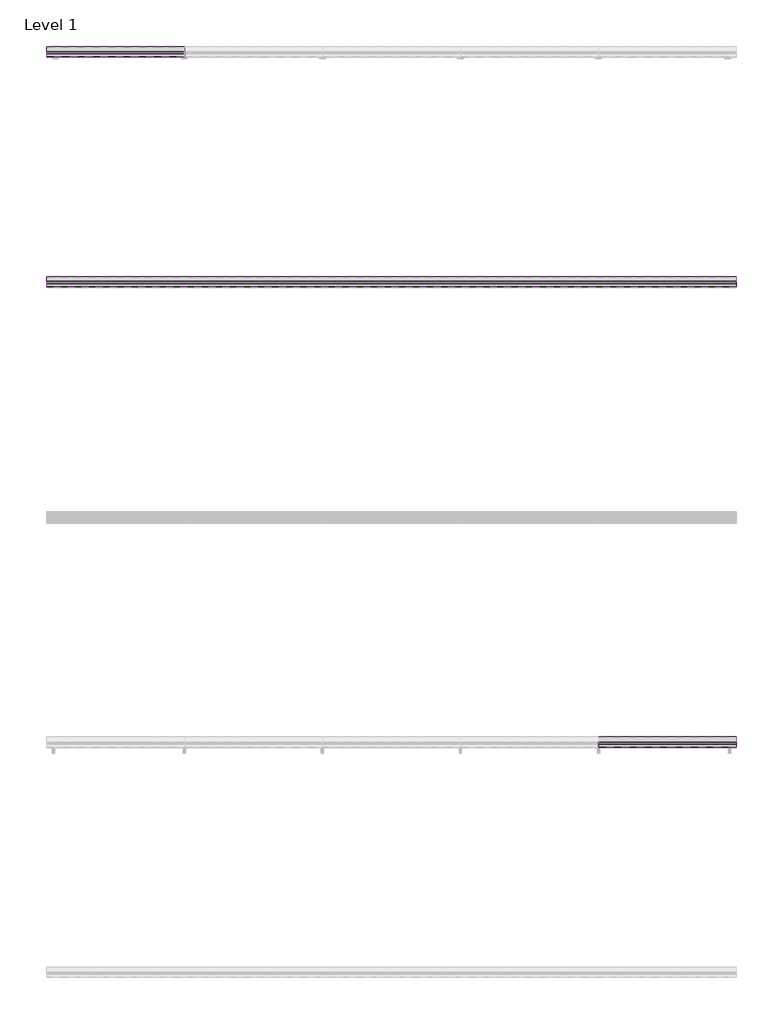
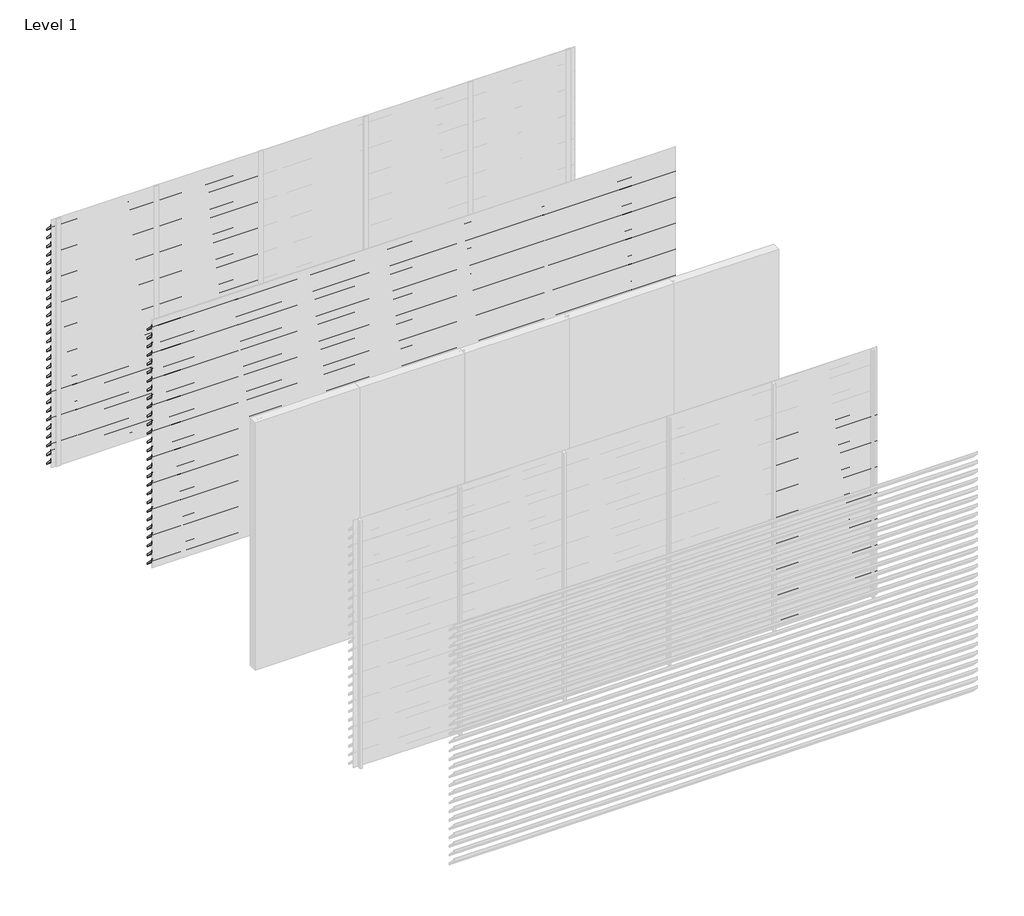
# One storey, part 7 of 8: 94 proxies.
"""IFC4 building model written with IfcOpenShell, lengths in millimetres."""

from ifc_helpers import new_model, si_unit, frame, origin, place, context, project, spatial, polyline, outline, extrude, element, save

model = new_model("IFC4")

# Units and contexts
model_context = context("Model", 3, world=origin())
ifc_project = project(units=[si_unit("LENGTHUNIT", "METRE", prefix="MILLI")], contexts=[model_context])

# Site, building, storey
site = spatial("IfcSite", under=ifc_project)
building = spatial("IfcBuilding", under=site)
storey = spatial("IfcBuildingStorey", under=building, Name="Level 1", Elevation=0.0)

# Proxies
placement = place(None, origin())
element("IfcBuildingElementProxy", 1, Name="Wall Sweeps", at=placement, inside=storey, context=model_context, shape_type="SweptSolid", body=[
    extrude(outline(polyline([(5.0, 2940.0), (5.0, 2927.0), (93.0, 2839.0), (93.0, 2818.0), (3.0, 2908.0), (3.0, 2940.0), (5.0, 2940.0)])), frame((0.0, 0.0, 0.0), z_axis=(1.0, 0.0, 0.0), x_axis=(0.0, 1.0, 0.0)), (0.0, 0.0, 1.0), 1200.0),
])
element("IfcBuildingElementProxy", 2, Name="Wall Sweeps", at=placement, inside=storey, context=model_context, shape_type="SweptSolid", body=[
    extrude(outline(polyline([(5.0, 2835.0), (5.0, 2822.0), (93.0, 2734.0), (93.0, 2713.0), (3.0, 2803.0), (3.0, 2835.0), (5.0, 2835.0)])), frame((0.0, 0.0, 0.0), z_axis=(1.0, 0.0, 0.0), x_axis=(0.0, 1.0, 0.0)), (0.0, 0.0, 1.0), 1200.0),
])
element("IfcBuildingElementProxy", 3, Name="Wall Sweeps", at=placement, inside=storey, context=model_context, shape_type="SweptSolid", body=[
    extrude(outline(polyline([(5.0, 2730.0), (5.0, 2717.0), (93.0, 2629.0), (93.0, 2608.0), (3.0, 2698.0), (3.0, 2730.0), (5.0, 2730.0)])), frame((0.0, 0.0, 0.0), z_axis=(1.0, 0.0, 0.0), x_axis=(0.0, 1.0, 0.0)), (0.0, 0.0, 1.0), 1200.0),
])
element("IfcBuildingElementProxy", 4, Name="Wall Sweeps", at=placement, inside=storey, context=model_context, shape_type="SweptSolid", body=[
    extrude(outline(polyline([(5.0, 2625.0), (5.0, 2612.0), (93.0, 2524.0), (93.0, 2503.0), (3.0, 2593.0), (3.0, 2625.0), (5.0, 2625.0)])), frame((0.0, 0.0, 0.0), z_axis=(1.0, 0.0, 0.0), x_axis=(0.0, 1.0, 0.0)), (0.0, 0.0, 1.0), 1200.0),
])
element("IfcBuildingElementProxy", 5, Name="Wall Sweeps", at=placement, inside=storey, context=model_context, shape_type="SweptSolid", body=[
    extrude(outline(polyline([(5.0, 2520.0), (5.0, 2507.0), (93.0, 2419.0), (93.0, 2398.0), (3.0, 2488.0), (3.0, 2520.0), (5.0, 2520.0)])), frame((0.0, 0.0, 0.0), z_axis=(1.0, 0.0, 0.0), x_axis=(0.0, 1.0, 0.0)), (0.0, 0.0, 1.0), 1200.0),
])
element("IfcBuildingElementProxy", 6, Name="Wall Sweeps", at=placement, inside=storey, context=model_context, shape_type="SweptSolid", body=[
    extrude(outline(polyline([(5.0, 2415.0), (5.0, 2402.0), (93.0, 2314.0), (93.0, 2293.0), (3.0, 2383.0), (3.0, 2415.0), (5.0, 2415.0)])), frame((0.0, 0.0, 0.0), z_axis=(1.0, 0.0, 0.0), x_axis=(0.0, 1.0, 0.0)), (0.0, 0.0, 1.0), 1200.0),
])
element("IfcBuildingElementProxy", 7, Name="Wall Sweeps", at=placement, inside=storey, context=model_context, shape_type="SweptSolid", body=[
    extrude(outline(polyline([(5.0, 2310.0), (5.0, 2297.0), (93.0, 2209.0), (93.0, 2188.0), (3.0, 2278.0), (3.0, 2310.0), (5.0, 2310.0)])), frame((0.0, 0.0, 0.0), z_axis=(1.0, 0.0, 0.0), x_axis=(0.0, 1.0, 0.0)), (0.0, 0.0, 1.0), 1200.0),
])
element("IfcBuildingElementProxy", 8, Name="Wall Sweeps", at=placement, inside=storey, context=model_context, shape_type="SweptSolid", body=[
    extrude(outline(polyline([(5.0, 2205.0), (5.0, 2192.0), (93.0, 2104.0), (93.0, 2083.0), (3.0, 2173.0), (3.0, 2205.0), (5.0, 2205.0)])), frame((0.0, 0.0, 0.0), z_axis=(1.0, 0.0, 0.0), x_axis=(0.0, 1.0, 0.0)), (0.0, 0.0, 1.0), 1200.0),
])
element("IfcBuildingElementProxy", 9, Name="Wall Sweeps", at=placement, inside=storey, context=model_context, shape_type="SweptSolid", body=[
    extrude(outline(polyline([(5.0, 2100.0), (5.0, 2087.0), (93.0, 1999.0), (93.0, 1978.0), (3.0, 2068.0), (3.0, 2100.0), (5.0, 2100.0)])), frame((0.0, 0.0, 0.0), z_axis=(1.0, 0.0, 0.0), x_axis=(0.0, 1.0, 0.0)), (0.0, 0.0, 1.0), 1200.0),
])
element("IfcBuildingElementProxy", 10, Name="Wall Sweeps", at=placement, inside=storey, context=model_context, shape_type="SweptSolid", body=[
    extrude(outline(polyline([(5.0, 1995.0), (5.0, 1982.0), (93.0, 1894.0), (93.0, 1873.0), (3.0, 1963.0), (3.0, 1995.0), (5.0, 1995.0)])), frame((0.0, 0.0, 0.0), z_axis=(1.0, 0.0, 0.0), x_axis=(0.0, 1.0, 0.0)), (0.0, 0.0, 1.0), 1200.0),
])
element("IfcBuildingElementProxy", 11, Name="Wall Sweeps", at=placement, inside=storey, context=model_context, shape_type="SweptSolid", body=[
    extrude(outline(polyline([(5.0, 1890.0), (5.0, 1877.0), (93.0, 1789.0), (93.0, 1768.0), (3.0, 1858.0), (3.0, 1890.0), (5.0, 1890.0)])), frame((0.0, 0.0, 0.0), z_axis=(1.0, 0.0, 0.0), x_axis=(0.0, 1.0, 0.0)), (0.0, 0.0, 1.0), 1200.0),
])
element("IfcBuildingElementProxy", 12, Name="Wall Sweeps", at=placement, inside=storey, context=model_context, shape_type="SweptSolid", body=[
    extrude(outline(polyline([(5.0, 1785.0), (5.0, 1772.0), (93.0, 1684.0), (93.0, 1663.0), (3.0, 1753.0), (3.0, 1785.0), (5.0, 1785.0)])), frame((0.0, 0.0, 0.0), z_axis=(1.0, 0.0, 0.0), x_axis=(0.0, 1.0, 0.0)), (0.0, 0.0, 1.0), 1200.0),
])
element("IfcBuildingElementProxy", 13, Name="Wall Sweeps", at=placement, inside=storey, context=model_context, shape_type="SweptSolid", body=[
    extrude(outline(polyline([(5.0, 1680.0), (5.0, 1667.0), (93.0, 1579.0), (93.0, 1558.0), (3.0, 1648.0), (3.0, 1680.0), (5.0, 1680.0)])), frame((0.0, 0.0, 0.0), z_axis=(1.0, 0.0, 0.0), x_axis=(0.0, 1.0, 0.0)), (0.0, 0.0, 1.0), 1200.0),
])
element("IfcBuildingElementProxy", 14, Name="Wall Sweeps", at=placement, inside=storey, context=model_context, shape_type="SweptSolid", body=[
    extrude(outline(polyline([(5.0, 1575.0), (5.0, 1562.0), (93.0, 1474.0), (93.0, 1453.0), (3.0, 1543.0), (3.0, 1575.0), (5.0, 1575.0)])), frame((0.0, 0.0, 0.0), z_axis=(1.0, 0.0, 0.0), x_axis=(0.0, 1.0, 0.0)), (0.0, 0.0, 1.0), 1200.0),
])
element("IfcBuildingElementProxy", 15, Name="Wall Sweeps", at=placement, inside=storey, context=model_context, shape_type="SweptSolid", body=[
    extrude(outline(polyline([(5.0, 1470.0), (5.0, 1457.0), (93.0, 1369.0), (93.0, 1348.0), (3.0, 1438.0), (3.0, 1470.0), (5.0, 1470.0)])), frame((0.0, 0.0, 0.0), z_axis=(1.0, 0.0, 0.0), x_axis=(0.0, 1.0, 0.0)), (0.0, 0.0, 1.0), 1200.0),
])
element("IfcBuildingElementProxy", 16, Name="Wall Sweeps", at=placement, inside=storey, context=model_context, shape_type="SweptSolid", body=[
    extrude(outline(polyline([(5.0, 1365.0), (5.0, 1352.0), (93.0, 1264.0), (93.0, 1243.0), (3.0, 1333.0), (3.0, 1365.0), (5.0, 1365.0)])), frame((0.0, 0.0, 0.0), z_axis=(1.0, 0.0, 0.0), x_axis=(0.0, 1.0, 0.0)), (0.0, 0.0, 1.0), 1200.0),
])
element("IfcBuildingElementProxy", 17, Name="Wall Sweeps", at=placement, inside=storey, context=model_context, shape_type="SweptSolid", body=[
    extrude(outline(polyline([(5.0, 1260.0), (5.0, 1247.0), (93.0, 1159.0), (93.0, 1138.0), (3.0, 1228.0), (3.0, 1260.0), (5.0, 1260.0)])), frame((0.0, 0.0, 0.0), z_axis=(1.0, 0.0, 0.0), x_axis=(0.0, 1.0, 0.0)), (0.0, 0.0, 1.0), 1200.0),
])
element("IfcBuildingElementProxy", 18, Name="Wall Sweeps", at=placement, inside=storey, context=model_context, shape_type="SweptSolid", body=[
    extrude(outline(polyline([(5.0, 1155.0), (5.0, 1142.0), (93.0, 1054.0), (93.0, 1033.0), (3.0, 1123.0), (3.0, 1155.0), (5.0, 1155.0)])), frame((0.0, 0.0, 0.0), z_axis=(1.0, 0.0, 0.0), x_axis=(0.0, 1.0, 0.0)), (0.0, 0.0, 1.0), 1200.0),
])
element("IfcBuildingElementProxy", 19, Name="Wall Sweeps", at=placement, inside=storey, context=model_context, shape_type="SweptSolid", body=[
    extrude(outline(polyline([(5.0, 1050.0), (5.0, 1037.0), (93.0, 949.0), (93.0, 928.0), (3.0, 1018.0), (3.0, 1050.0), (5.0, 1050.0)])), frame((0.0, 0.0, 0.0), z_axis=(1.0, 0.0, 0.0), x_axis=(0.0, 1.0, 0.0)), (0.0, 0.0, 1.0), 1200.0),
])
element("IfcBuildingElementProxy", 20, Name="Wall Sweeps", at=placement, inside=storey, context=model_context, shape_type="SweptSolid", body=[
    extrude(outline(polyline([(5.0, 945.0), (5.0, 932.0), (93.0, 844.0), (93.0, 823.0), (3.0, 913.0), (3.0, 945.0), (5.0, 945.0)])), frame((0.0, 0.0, 0.0), z_axis=(1.0, 0.0, 0.0), x_axis=(0.0, 1.0, 0.0)), (0.0, 0.0, 1.0), 1200.0),
])
element("IfcBuildingElementProxy", 21, Name="Wall Sweeps", at=placement, inside=storey, context=model_context, shape_type="SweptSolid", body=[
    extrude(outline(polyline([(5.0, 840.0), (5.0, 827.0), (93.0, 739.0), (93.0, 718.0), (3.0, 808.0), (3.0, 840.0), (5.0, 840.0)])), frame((0.0, 0.0, 0.0), z_axis=(1.0, 0.0, 0.0), x_axis=(0.0, 1.0, 0.0)), (0.0, 0.0, 1.0), 1200.0),
])
element("IfcBuildingElementProxy", 22, Name="Wall Sweeps", at=placement, inside=storey, context=model_context, shape_type="SweptSolid", body=[
    extrude(outline(polyline([(5.0, 735.0), (5.0, 722.0), (93.0, 634.0), (93.0, 613.0), (3.0, 703.0), (3.0, 735.0), (5.0, 735.0)])), frame((0.0, 0.0, 0.0), z_axis=(1.0, 0.0, 0.0), x_axis=(0.0, 1.0, 0.0)), (0.0, 0.0, 1.0), 1200.0),
])
element("IfcBuildingElementProxy", 23, Name="Wall Sweeps", at=placement, inside=storey, context=model_context, shape_type="SweptSolid", body=[
    extrude(outline(polyline([(5.0, 630.0), (5.0, 617.0), (93.0, 529.0), (93.0, 508.0), (3.0, 598.0), (3.0, 630.0), (5.0, 630.0)])), frame((0.0, 0.0, 0.0), z_axis=(1.0, 0.0, 0.0), x_axis=(0.0, 1.0, 0.0)), (0.0, 0.0, 1.0), 1200.0),
])
element("IfcBuildingElementProxy", 24, Name="Wall Sweeps", at=placement, inside=storey, context=model_context, shape_type="SweptSolid", body=[
    extrude(outline(polyline([(5.0, 525.0), (5.0, 512.0), (93.0, 424.0), (93.0, 403.0), (3.0, 493.0), (3.0, 525.0), (5.0, 525.0)])), frame((0.0, 0.0, 0.0), z_axis=(1.0, 0.0, 0.0), x_axis=(0.0, 1.0, 0.0)), (0.0, 0.0, 1.0), 1200.0),
])
element("IfcBuildingElementProxy", 25, Name="Wall Sweeps", at=placement, inside=storey, context=model_context, shape_type="SweptSolid", body=[
    extrude(outline(polyline([(5.0, 420.0), (5.0, 407.0), (93.0, 319.0), (93.0, 298.0), (3.0, 388.0), (3.0, 420.0), (5.0, 420.0)])), frame((0.0, 0.0, 0.0), z_axis=(1.0, 0.0, 0.0), x_axis=(0.0, 1.0, 0.0)), (0.0, 0.0, 1.0), 1200.0),
])
element("IfcBuildingElementProxy", 26, Name="Wall Sweeps", at=placement, inside=storey, context=model_context, shape_type="SweptSolid", body=[
    extrude(outline(polyline([(5.0, 315.0), (5.0, 302.0), (93.0, 214.0), (93.0, 193.0), (3.0, 283.0), (3.0, 315.0), (5.0, 315.0)])), frame((0.0, 0.0, 0.0), z_axis=(1.0, 0.0, 0.0), x_axis=(0.0, 1.0, 0.0)), (0.0, 0.0, 1.0), 1200.0),
])
element("IfcBuildingElementProxy", 27, Name="Wall Sweeps", at=placement, inside=storey, context=model_context, shape_type="SweptSolid", body=[
    extrude(outline(polyline([(5.0, 210.0), (5.0, 197.0), (93.0, 109.0), (93.0, 88.0), (3.0, 178.0), (3.0, 210.0), (5.0, 210.0)])), frame((0.0, 0.0, 0.0), z_axis=(1.0, 0.0, 0.0), x_axis=(0.0, 1.0, 0.0)), (0.0, 0.0, 1.0), 1200.0),
])
element("IfcBuildingElementProxy", 28, Name="Wall Sweeps", at=placement, inside=storey, context=model_context, shape_type="SweptSolid", body=[
    extrude(outline(polyline([(5.0, 105.0), (5.0, 92.0), (93.0, 4.0), (93.0, -17.0), (3.0, 73.0), (3.0, 105.0), (5.0, 105.0)])), frame((0.0, 0.0, 0.0), z_axis=(1.0, 0.0, 0.0), x_axis=(0.0, 1.0, 0.0)), (0.0, 0.0, 1.0), 1200.0),
])
element("IfcBuildingElementProxy", 29, Name="Wall Sweeps", at=placement, inside=storey, context=model_context, shape_type="SweptSolid", body=[
    extrude(outline(polyline([(5.0, 2940.0), (5.0, 2927.0), (93.0, 2839.0), (93.0, 2818.0), (3.0, 2908.0), (3.0, 2940.0), (5.0, 2940.0)])), frame((1200.0, 0.0, 0.0), z_axis=(1.0, 0.0, 0.0), x_axis=(0.0, 1.0, 0.0)), (0.0, 0.0, 1.0), 1200.0),
])
element("IfcBuildingElementProxy", 30, Name="Wall Sweeps", at=placement, inside=storey, context=model_context, shape_type="SweptSolid", body=[
    extrude(outline(polyline([(5.0, 2835.0), (5.0, 2822.0), (93.0, 2734.0), (93.0, 2713.0), (3.0, 2803.0), (3.0, 2835.0), (5.0, 2835.0)])), frame((1200.0, 0.0, 0.0), z_axis=(1.0, 0.0, 0.0), x_axis=(0.0, 1.0, 0.0)), (0.0, 0.0, 1.0), 1200.0),
])
element("IfcBuildingElementProxy", 31, Name="Wall Sweeps", at=placement, inside=storey, context=model_context, shape_type="SweptSolid", body=[
    extrude(outline(polyline([(5.0, 2730.0), (5.0, 2717.0), (93.0, 2629.0), (93.0, 2608.0), (3.0, 2698.0), (3.0, 2730.0), (5.0, 2730.0)])), frame((1200.0, 0.0, 0.0), z_axis=(1.0, 0.0, 0.0), x_axis=(0.0, 1.0, 0.0)), (0.0, 0.0, 1.0), 1200.0),
])
element("IfcBuildingElementProxy", 32, Name="Wall Sweeps", at=placement, inside=storey, context=model_context, shape_type="SweptSolid", body=[
    extrude(outline(polyline([(5.0, 2625.0), (5.0, 2612.0), (93.0, 2524.0), (93.0, 2503.0), (3.0, 2593.0), (3.0, 2625.0), (5.0, 2625.0)])), frame((1200.0, 0.0, 0.0), z_axis=(1.0, 0.0, 0.0), x_axis=(0.0, 1.0, 0.0)), (0.0, 0.0, 1.0), 1200.0),
])
element("IfcBuildingElementProxy", 33, Name="Wall Sweeps", at=placement, inside=storey, context=model_context, shape_type="SweptSolid", body=[
    extrude(outline(polyline([(5.0, 2520.0), (5.0, 2507.0), (93.0, 2419.0), (93.0, 2398.0), (3.0, 2488.0), (3.0, 2520.0), (5.0, 2520.0)])), frame((1200.0, 0.0, 0.0), z_axis=(1.0, 0.0, 0.0), x_axis=(0.0, 1.0, 0.0)), (0.0, 0.0, 1.0), 1200.0),
])
element("IfcBuildingElementProxy", 34, Name="Wall Sweeps", at=placement, inside=storey, context=model_context, shape_type="SweptSolid", body=[
    extrude(outline(polyline([(5.0, 2415.0), (5.0, 2402.0), (93.0, 2314.0), (93.0, 2293.0), (3.0, 2383.0), (3.0, 2415.0), (5.0, 2415.0)])), frame((1200.0, 0.0, 0.0), z_axis=(1.0, 0.0, 0.0), x_axis=(0.0, 1.0, 0.0)), (0.0, 0.0, 1.0), 1200.0),
])
element("IfcBuildingElementProxy", 35, Name="Wall Sweeps", at=placement, inside=storey, context=model_context, shape_type="SweptSolid", body=[
    extrude(outline(polyline([(5.0, 2310.0), (5.0, 2297.0), (93.0, 2209.0), (93.0, 2188.0), (3.0, 2278.0), (3.0, 2310.0), (5.0, 2310.0)])), frame((1200.0, 0.0, 0.0), z_axis=(1.0, 0.0, 0.0), x_axis=(0.0, 1.0, 0.0)), (0.0, 0.0, 1.0), 1200.0),
])
element("IfcBuildingElementProxy", 36, Name="Wall Sweeps", at=placement, inside=storey, context=model_context, shape_type="SweptSolid", body=[
    extrude(outline(polyline([(5.0, 2205.0), (5.0, 2192.0), (93.0, 2104.0), (93.0, 2083.0), (3.0, 2173.0), (3.0, 2205.0), (5.0, 2205.0)])), frame((1200.0, 0.0, 0.0), z_axis=(1.0, 0.0, 0.0), x_axis=(0.0, 1.0, 0.0)), (0.0, 0.0, 1.0), 1200.0),
])
element("IfcBuildingElementProxy", 37, Name="Wall Sweeps", at=placement, inside=storey, context=model_context, shape_type="SweptSolid", body=[
    extrude(outline(polyline([(5.0, 2100.0), (5.0, 2087.0), (93.0, 1999.0), (93.0, 1978.0), (3.0, 2068.0), (3.0, 2100.0), (5.0, 2100.0)])), frame((1200.0, 0.0, 0.0), z_axis=(1.0, 0.0, 0.0), x_axis=(0.0, 1.0, 0.0)), (0.0, 0.0, 1.0), 1200.0),
])
element("IfcBuildingElementProxy", 38, Name="Wall Sweeps", at=placement, inside=storey, context=model_context, shape_type="SweptSolid", body=[
    extrude(outline(polyline([(5.0, 1995.0), (5.0, 1982.0), (93.0, 1894.0), (93.0, 1873.0), (3.0, 1963.0), (3.0, 1995.0), (5.0, 1995.0)])), frame((1200.0, 0.0, 0.0), z_axis=(1.0, 0.0, 0.0), x_axis=(0.0, 1.0, 0.0)), (0.0, 0.0, 1.0), 1200.0),
])
element("IfcBuildingElementProxy", 39, Name="Wall Sweeps", at=placement, inside=storey, context=model_context, shape_type="SweptSolid", body=[
    extrude(outline(polyline([(5.0, 1890.0), (5.0, 1877.0), (93.0, 1789.0), (93.0, 1768.0), (3.0, 1858.0), (3.0, 1890.0), (5.0, 1890.0)])), frame((1200.0, 0.0, 0.0), z_axis=(1.0, 0.0, 0.0), x_axis=(0.0, 1.0, 0.0)), (0.0, 0.0, 1.0), 1200.0),
])
element("IfcBuildingElementProxy", 40, Name="Wall Sweeps", at=placement, inside=storey, context=model_context, shape_type="SweptSolid", body=[
    extrude(outline(polyline([(5.0, 1785.0), (5.0, 1772.0), (93.0, 1684.0), (93.0, 1663.0), (3.0, 1753.0), (3.0, 1785.0), (5.0, 1785.0)])), frame((1200.0, 0.0, 0.0), z_axis=(1.0, 0.0, 0.0), x_axis=(0.0, 1.0, 0.0)), (0.0, 0.0, 1.0), 1200.0),
])
element("IfcBuildingElementProxy", 41, Name="Wall Sweeps", at=placement, inside=storey, context=model_context, shape_type="SweptSolid", body=[
    extrude(outline(polyline([(5.0, 1680.0), (5.0, 1667.0), (93.0, 1579.0), (93.0, 1558.0), (3.0, 1648.0), (3.0, 1680.0), (5.0, 1680.0)])), frame((1200.0, 0.0, 0.0), z_axis=(1.0, 0.0, 0.0), x_axis=(0.0, 1.0, 0.0)), (0.0, 0.0, 1.0), 1200.0),
])
element("IfcBuildingElementProxy", 42, Name="Wall Sweeps", at=placement, inside=storey, context=model_context, shape_type="SweptSolid", body=[
    extrude(outline(polyline([(5.0, 1575.0), (5.0, 1562.0), (93.0, 1474.0), (93.0, 1453.0), (3.0, 1543.0), (3.0, 1575.0), (5.0, 1575.0)])), frame((1200.0, 0.0, 0.0), z_axis=(1.0, 0.0, 0.0), x_axis=(0.0, 1.0, 0.0)), (0.0, 0.0, 1.0), 1200.0),
])
element("IfcBuildingElementProxy", 43, Name="Wall Sweeps", at=placement, inside=storey, context=model_context, shape_type="SweptSolid", body=[
    extrude(outline(polyline([(5.0, 1470.0), (5.0, 1457.0), (93.0, 1369.0), (93.0, 1348.0), (3.0, 1438.0), (3.0, 1470.0), (5.0, 1470.0)])), frame((1200.0, 0.0, 0.0), z_axis=(1.0, 0.0, 0.0), x_axis=(0.0, 1.0, 0.0)), (0.0, 0.0, 1.0), 1200.0),
])
element("IfcBuildingElementProxy", 44, Name="Wall Sweeps", at=placement, inside=storey, context=model_context, shape_type="SweptSolid", body=[
    extrude(outline(polyline([(-1995.0, 2940.0), (-1995.0, 2927.0), (-1907.0, 2839.0), (-1907.0, 2818.0), (-1997.0, 2908.0), (-1997.0, 2940.0), (-1995.0, 2940.0)])), frame((0.0, 0.0, 0.0), z_axis=(1.0, 0.0, 0.0), x_axis=(0.0, 1.0, 0.0)), (0.0, 0.0, 1.0), 6000.0),
])
element("IfcBuildingElementProxy", 45, Name="Wall Sweeps", at=placement, inside=storey, context=model_context, shape_type="SweptSolid", body=[
    extrude(outline(polyline([(-1995.0, 2835.0), (-1995.0, 2822.0), (-1907.0, 2734.0), (-1907.0, 2713.0), (-1997.0, 2803.0), (-1997.0, 2835.0), (-1995.0, 2835.0)])), frame((0.0, 0.0, 0.0), z_axis=(1.0, 0.0, 0.0), x_axis=(0.0, 1.0, 0.0)), (0.0, 0.0, 1.0), 6000.0),
])
element("IfcBuildingElementProxy", 46, Name="Wall Sweeps", at=placement, inside=storey, context=model_context, shape_type="SweptSolid", body=[
    extrude(outline(polyline([(-1995.0, 2730.0), (-1995.0, 2717.0), (-1907.0, 2629.0), (-1907.0, 2608.0), (-1997.0, 2698.0), (-1997.0, 2730.0), (-1995.0, 2730.0)])), frame((0.0, 0.0, 0.0), z_axis=(1.0, 0.0, 0.0), x_axis=(0.0, 1.0, 0.0)), (0.0, 0.0, 1.0), 6000.0),
])
element("IfcBuildingElementProxy", 47, Name="Wall Sweeps", at=placement, inside=storey, context=model_context, shape_type="SweptSolid", body=[
    extrude(outline(polyline([(-1995.0, 2625.0), (-1995.0, 2612.0), (-1907.0, 2524.0), (-1907.0, 2503.0), (-1997.0, 2593.0), (-1997.0, 2625.0), (-1995.0, 2625.0)])), frame((0.0, 0.0, 0.0), z_axis=(1.0, 0.0, 0.0), x_axis=(0.0, 1.0, 0.0)), (0.0, 0.0, 1.0), 6000.0),
])
element("IfcBuildingElementProxy", 48, Name="Wall Sweeps", at=placement, inside=storey, context=model_context, shape_type="SweptSolid", body=[
    extrude(outline(polyline([(-1995.0, 2520.0), (-1995.0, 2507.0), (-1907.0, 2419.0), (-1907.0, 2398.0), (-1997.0, 2488.0), (-1997.0, 2520.0), (-1995.0, 2520.0)])), frame((0.0, 0.0, 0.0), z_axis=(1.0, 0.0, 0.0), x_axis=(0.0, 1.0, 0.0)), (0.0, 0.0, 1.0), 6000.0),
])
element("IfcBuildingElementProxy", 49, Name="Wall Sweeps", at=placement, inside=storey, context=model_context, shape_type="SweptSolid", body=[
    extrude(outline(polyline([(-1995.0, 2415.0), (-1995.0, 2402.0), (-1907.0, 2314.0), (-1907.0, 2293.0), (-1997.0, 2383.0), (-1997.0, 2415.0), (-1995.0, 2415.0)])), frame((0.0, 0.0, 0.0), z_axis=(1.0, 0.0, 0.0), x_axis=(0.0, 1.0, 0.0)), (0.0, 0.0, 1.0), 6000.0),
])
element("IfcBuildingElementProxy", 50, Name="Wall Sweeps", at=placement, inside=storey, context=model_context, shape_type="SweptSolid", body=[
    extrude(outline(polyline([(-1995.0, 2310.0), (-1995.0, 2297.0), (-1907.0, 2209.0), (-1907.0, 2188.0), (-1997.0, 2278.0), (-1997.0, 2310.0), (-1995.0, 2310.0)])), frame((0.0, 0.0, 0.0), z_axis=(1.0, 0.0, 0.0), x_axis=(0.0, 1.0, 0.0)), (0.0, 0.0, 1.0), 6000.0),
])
element("IfcBuildingElementProxy", 51, Name="Wall Sweeps", at=placement, inside=storey, context=model_context, shape_type="SweptSolid", body=[
    extrude(outline(polyline([(-1995.0, 2205.0), (-1995.0, 2192.0), (-1907.0, 2104.0), (-1907.0, 2083.0), (-1997.0, 2173.0), (-1997.0, 2205.0), (-1995.0, 2205.0)])), frame((0.0, 0.0, 0.0), z_axis=(1.0, 0.0, 0.0), x_axis=(0.0, 1.0, 0.0)), (0.0, 0.0, 1.0), 6000.0),
])
element("IfcBuildingElementProxy", 52, Name="Wall Sweeps", at=placement, inside=storey, context=model_context, shape_type="SweptSolid", body=[
    extrude(outline(polyline([(-1995.0, 2100.0), (-1995.0, 2087.0), (-1907.0, 1999.0), (-1907.0, 1978.0), (-1997.0, 2068.0), (-1997.0, 2100.0), (-1995.0, 2100.0)])), frame((0.0, 0.0, 0.0), z_axis=(1.0, 0.0, 0.0), x_axis=(0.0, 1.0, 0.0)), (0.0, 0.0, 1.0), 6000.0),
])
element("IfcBuildingElementProxy", 53, Name="Wall Sweeps", at=placement, inside=storey, context=model_context, shape_type="SweptSolid", body=[
    extrude(outline(polyline([(-1995.0, 1995.0), (-1995.0, 1982.0), (-1907.0, 1894.0), (-1907.0, 1873.0), (-1997.0, 1963.0), (-1997.0, 1995.0), (-1995.0, 1995.0)])), frame((0.0, 0.0, 0.0), z_axis=(1.0, 0.0, 0.0), x_axis=(0.0, 1.0, 0.0)), (0.0, 0.0, 1.0), 6000.0),
])
element("IfcBuildingElementProxy", 54, Name="Wall Sweeps", at=placement, inside=storey, context=model_context, shape_type="SweptSolid", body=[
    extrude(outline(polyline([(-1995.0, 1890.0), (-1995.0, 1877.0), (-1907.0, 1789.0), (-1907.0, 1768.0), (-1997.0, 1858.0), (-1997.0, 1890.0), (-1995.0, 1890.0)])), frame((0.0, 0.0, 0.0), z_axis=(1.0, 0.0, 0.0), x_axis=(0.0, 1.0, 0.0)), (0.0, 0.0, 1.0), 6000.0),
])
element("IfcBuildingElementProxy", 55, Name="Wall Sweeps", at=placement, inside=storey, context=model_context, shape_type="SweptSolid", body=[
    extrude(outline(polyline([(-1995.0, 1785.0), (-1995.0, 1772.0), (-1907.0, 1684.0), (-1907.0, 1663.0), (-1997.0, 1753.0), (-1997.0, 1785.0), (-1995.0, 1785.0)])), frame((0.0, 0.0, 0.0), z_axis=(1.0, 0.0, 0.0), x_axis=(0.0, 1.0, 0.0)), (0.0, 0.0, 1.0), 6000.0),
])
element("IfcBuildingElementProxy", 56, Name="Wall Sweeps", at=placement, inside=storey, context=model_context, shape_type="SweptSolid", body=[
    extrude(outline(polyline([(-1995.0, 1680.0), (-1995.0, 1667.0), (-1907.0, 1579.0), (-1907.0, 1558.0), (-1997.0, 1648.0), (-1997.0, 1680.0), (-1995.0, 1680.0)])), frame((0.0, 0.0, 0.0), z_axis=(1.0, 0.0, 0.0), x_axis=(0.0, 1.0, 0.0)), (0.0, 0.0, 1.0), 6000.0),
])
element("IfcBuildingElementProxy", 57, Name="Wall Sweeps", at=placement, inside=storey, context=model_context, shape_type="SweptSolid", body=[
    extrude(outline(polyline([(-1995.0, 1575.0), (-1995.0, 1562.0), (-1907.0, 1474.0), (-1907.0, 1453.0), (-1997.0, 1543.0), (-1997.0, 1575.0), (-1995.0, 1575.0)])), frame((0.0, 0.0, 0.0), z_axis=(1.0, 0.0, 0.0), x_axis=(0.0, 1.0, 0.0)), (0.0, 0.0, 1.0), 6000.0),
])
element("IfcBuildingElementProxy", 58, Name="Wall Sweeps", at=placement, inside=storey, context=model_context, shape_type="SweptSolid", body=[
    extrude(outline(polyline([(-1995.0, 1470.0), (-1995.0, 1457.0), (-1907.0, 1369.0), (-1907.0, 1348.0), (-1997.0, 1438.0), (-1997.0, 1470.0), (-1995.0, 1470.0)])), frame((0.0, 0.0, 0.0), z_axis=(1.0, 0.0, 0.0), x_axis=(0.0, 1.0, 0.0)), (0.0, 0.0, 1.0), 6000.0),
])
element("IfcBuildingElementProxy", 59, Name="Wall Sweeps", at=placement, inside=storey, context=model_context, shape_type="SweptSolid", body=[
    extrude(outline(polyline([(-1995.0, 1365.0), (-1995.0, 1352.0), (-1907.0, 1264.0), (-1907.0, 1243.0), (-1997.0, 1333.0), (-1997.0, 1365.0), (-1995.0, 1365.0)])), frame((0.0, 0.0, 0.0), z_axis=(1.0, 0.0, 0.0), x_axis=(0.0, 1.0, 0.0)), (0.0, 0.0, 1.0), 6000.0),
])
element("IfcBuildingElementProxy", 60, Name="Wall Sweeps", at=placement, inside=storey, context=model_context, shape_type="SweptSolid", body=[
    extrude(outline(polyline([(-1995.0, 1260.0), (-1995.0, 1247.0), (-1907.0, 1159.0), (-1907.0, 1138.0), (-1997.0, 1228.0), (-1997.0, 1260.0), (-1995.0, 1260.0)])), frame((0.0, 0.0, 0.0), z_axis=(1.0, 0.0, 0.0), x_axis=(0.0, 1.0, 0.0)), (0.0, 0.0, 1.0), 6000.0),
])
element("IfcBuildingElementProxy", 61, Name="Wall Sweeps", at=placement, inside=storey, context=model_context, shape_type="SweptSolid", body=[
    extrude(outline(polyline([(-1995.0, 1155.0), (-1995.0, 1142.0), (-1907.0, 1054.0), (-1907.0, 1033.0), (-1997.0, 1123.0), (-1997.0, 1155.0), (-1995.0, 1155.0)])), frame((0.0, 0.0, 0.0), z_axis=(1.0, 0.0, 0.0), x_axis=(0.0, 1.0, 0.0)), (0.0, 0.0, 1.0), 6000.0),
])
element("IfcBuildingElementProxy", 62, Name="Wall Sweeps", at=placement, inside=storey, context=model_context, shape_type="SweptSolid", body=[
    extrude(outline(polyline([(-1995.0, 1050.0), (-1995.0, 1037.0), (-1907.0, 949.0), (-1907.0, 928.0), (-1997.0, 1018.0), (-1997.0, 1050.0), (-1995.0, 1050.0)])), frame((0.0, 0.0, 0.0), z_axis=(1.0, 0.0, 0.0), x_axis=(0.0, 1.0, 0.0)), (0.0, 0.0, 1.0), 6000.0),
])
element("IfcBuildingElementProxy", 63, Name="Wall Sweeps", at=placement, inside=storey, context=model_context, shape_type="SweptSolid", body=[
    extrude(outline(polyline([(-1995.0, 945.0), (-1995.0, 932.0), (-1907.0, 844.0), (-1907.0, 823.0), (-1997.0, 913.0), (-1997.0, 945.0), (-1995.0, 945.0)])), frame((0.0, 0.0, 0.0), z_axis=(1.0, 0.0, 0.0), x_axis=(0.0, 1.0, 0.0)), (0.0, 0.0, 1.0), 6000.0),
])
element("IfcBuildingElementProxy", 64, Name="Wall Sweeps", at=placement, inside=storey, context=model_context, shape_type="SweptSolid", body=[
    extrude(outline(polyline([(-1995.0, 840.0), (-1995.0, 827.0), (-1907.0, 739.0), (-1907.0, 718.0), (-1997.0, 808.0), (-1997.0, 840.0), (-1995.0, 840.0)])), frame((0.0, 0.0, 0.0), z_axis=(1.0, 0.0, 0.0), x_axis=(0.0, 1.0, 0.0)), (0.0, 0.0, 1.0), 6000.0),
])
element("IfcBuildingElementProxy", 65, Name="Wall Sweeps", at=placement, inside=storey, context=model_context, shape_type="SweptSolid", body=[
    extrude(outline(polyline([(-1995.0, 735.0), (-1995.0, 722.0), (-1907.0, 634.0), (-1907.0, 613.0), (-1997.0, 703.0), (-1997.0, 735.0), (-1995.0, 735.0)])), frame((0.0, 0.0, 0.0), z_axis=(1.0, 0.0, 0.0), x_axis=(0.0, 1.0, 0.0)), (0.0, 0.0, 1.0), 6000.0),
])
element("IfcBuildingElementProxy", 66, Name="Wall Sweeps", at=placement, inside=storey, context=model_context, shape_type="SweptSolid", body=[
    extrude(outline(polyline([(-1995.0, 630.0), (-1995.0, 617.0), (-1907.0, 529.0), (-1907.0, 508.0), (-1997.0, 598.0), (-1997.0, 630.0), (-1995.0, 630.0)])), frame((0.0, 0.0, 0.0), z_axis=(1.0, 0.0, 0.0), x_axis=(0.0, 1.0, 0.0)), (0.0, 0.0, 1.0), 6000.0),
])
element("IfcBuildingElementProxy", 67, Name="Wall Sweeps", at=placement, inside=storey, context=model_context, shape_type="SweptSolid", body=[
    extrude(outline(polyline([(-1995.0, 525.0), (-1995.0, 512.0), (-1907.0, 424.0), (-1907.0, 403.0), (-1997.0, 493.0), (-1997.0, 525.0), (-1995.0, 525.0)])), frame((0.0, 0.0, 0.0), z_axis=(1.0, 0.0, 0.0), x_axis=(0.0, 1.0, 0.0)), (0.0, 0.0, 1.0), 6000.0),
])
element("IfcBuildingElementProxy", 68, Name="Wall Sweeps", at=placement, inside=storey, context=model_context, shape_type="SweptSolid", body=[
    extrude(outline(polyline([(-1995.0, 420.0), (-1995.0, 407.0), (-1907.0, 319.0), (-1907.0, 298.0), (-1997.0, 388.0), (-1997.0, 420.0), (-1995.0, 420.0)])), frame((0.0, 0.0, 0.0), z_axis=(1.0, 0.0, 0.0), x_axis=(0.0, 1.0, 0.0)), (0.0, 0.0, 1.0), 6000.0),
])
element("IfcBuildingElementProxy", 69, Name="Wall Sweeps", at=placement, inside=storey, context=model_context, shape_type="SweptSolid", body=[
    extrude(outline(polyline([(-1995.0, 315.0), (-1995.0, 302.0), (-1907.0, 214.0), (-1907.0, 193.0), (-1997.0, 283.0), (-1997.0, 315.0), (-1995.0, 315.0)])), frame((0.0, 0.0, 0.0), z_axis=(1.0, 0.0, 0.0), x_axis=(0.0, 1.0, 0.0)), (0.0, 0.0, 1.0), 6000.0),
])
element("IfcBuildingElementProxy", 70, Name="Wall Sweeps", at=placement, inside=storey, context=model_context, shape_type="SweptSolid", body=[
    extrude(outline(polyline([(-1995.0, 210.0), (-1995.0, 197.0), (-1907.0, 109.0), (-1907.0, 88.0), (-1997.0, 178.0), (-1997.0, 210.0), (-1995.0, 210.0)])), frame((0.0, 0.0, 0.0), z_axis=(1.0, 0.0, 0.0), x_axis=(0.0, 1.0, 0.0)), (0.0, 0.0, 1.0), 6000.0),
])
element("IfcBuildingElementProxy", 71, Name="Wall Sweeps", at=placement, inside=storey, context=model_context, shape_type="SweptSolid", body=[
    extrude(outline(polyline([(-1995.0, 105.0), (-1995.0, 92.0), (-1907.0, 4.0), (-1907.0, -17.0), (-1997.0, 73.0), (-1997.0, 105.0), (-1995.0, 105.0)])), frame((0.0, 0.0, 0.0), z_axis=(1.0, 0.0, 0.0), x_axis=(0.0, 1.0, 0.0)), (0.0, 0.0, 1.0), 6000.0),
])
element("IfcBuildingElementProxy", 72, Name="Wall Sweeps", at=placement, inside=storey, context=model_context, shape_type="SweptSolid", body=[
    extrude(outline(polyline([(-5995.0, 2415.0), (-5995.0, 2402.0), (-5907.0, 2314.0), (-5907.0, 2293.0), (-5997.0, 2383.0), (-5997.0, 2415.0), (-5995.0, 2415.0)])), frame((4800.0, 0.0, 0.0), z_axis=(1.0, 0.0, 0.0), x_axis=(0.0, 1.0, 0.0)), (0.0, 0.0, 1.0), 1200.0),
])
element("IfcBuildingElementProxy", 73, Name="Wall Sweeps", at=placement, inside=storey, context=model_context, shape_type="SweptSolid", body=[
    extrude(outline(polyline([(-5995.0, 2310.0), (-5995.0, 2297.0), (-5907.0, 2209.0), (-5907.0, 2188.0), (-5997.0, 2278.0), (-5997.0, 2310.0), (-5995.0, 2310.0)])), frame((4800.0, 0.0, 0.0), z_axis=(1.0, 0.0, 0.0), x_axis=(0.0, 1.0, 0.0)), (0.0, 0.0, 1.0), 1200.0),
])
element("IfcBuildingElementProxy", 74, Name="Wall Sweeps", at=placement, inside=storey, context=model_context, shape_type="SweptSolid", body=[
    extrude(outline(polyline([(-5995.0, 2205.0), (-5995.0, 2192.0), (-5907.0, 2104.0), (-5907.0, 2083.0), (-5997.0, 2173.0), (-5997.0, 2205.0), (-5995.0, 2205.0)])), frame((4800.0, 0.0, 0.0), z_axis=(1.0, 0.0, 0.0), x_axis=(0.0, 1.0, 0.0)), (0.0, 0.0, 1.0), 1200.0),
])
element("IfcBuildingElementProxy", 75, Name="Wall Sweeps", at=placement, inside=storey, context=model_context, shape_type="SweptSolid", body=[
    extrude(outline(polyline([(-5995.0, 2100.0), (-5995.0, 2087.0), (-5907.0, 1999.0), (-5907.0, 1978.0), (-5997.0, 2068.0), (-5997.0, 2100.0), (-5995.0, 2100.0)])), frame((4800.0, 0.0, 0.0), z_axis=(1.0, 0.0, 0.0), x_axis=(0.0, 1.0, 0.0)), (0.0, 0.0, 1.0), 1200.0),
])
element("IfcBuildingElementProxy", 76, Name="Wall Sweeps", at=placement, inside=storey, context=model_context, shape_type="SweptSolid", body=[
    extrude(outline(polyline([(-5995.0, 1995.0), (-5995.0, 1982.0), (-5907.0, 1894.0), (-5907.0, 1873.0), (-5997.0, 1963.0), (-5997.0, 1995.0), (-5995.0, 1995.0)])), frame((4800.0, 0.0, 0.0), z_axis=(1.0, 0.0, 0.0), x_axis=(0.0, 1.0, 0.0)), (0.0, 0.0, 1.0), 1200.0),
])
element("IfcBuildingElementProxy", 77, Name="Wall Sweeps", at=placement, inside=storey, context=model_context, shape_type="SweptSolid", body=[
    extrude(outline(polyline([(-5995.0, 1890.0), (-5995.0, 1877.0), (-5907.0, 1789.0), (-5907.0, 1768.0), (-5997.0, 1858.0), (-5997.0, 1890.0), (-5995.0, 1890.0)])), frame((4800.0, 0.0, 0.0), z_axis=(1.0, 0.0, 0.0), x_axis=(0.0, 1.0, 0.0)), (0.0, 0.0, 1.0), 1200.0),
])
element("IfcBuildingElementProxy", 78, Name="Wall Sweeps", at=placement, inside=storey, context=model_context, shape_type="SweptSolid", body=[
    extrude(outline(polyline([(-5995.0, 1785.0), (-5995.0, 1772.0), (-5907.0, 1684.0), (-5907.0, 1663.0), (-5997.0, 1753.0), (-5997.0, 1785.0), (-5995.0, 1785.0)])), frame((4800.0, 0.0, 0.0), z_axis=(1.0, 0.0, 0.0), x_axis=(0.0, 1.0, 0.0)), (0.0, 0.0, 1.0), 1200.0),
])
element("IfcBuildingElementProxy", 79, Name="Wall Sweeps", at=placement, inside=storey, context=model_context, shape_type="SweptSolid", body=[
    extrude(outline(polyline([(-5995.0, 1680.0), (-5995.0, 1667.0), (-5907.0, 1579.0), (-5907.0, 1558.0), (-5997.0, 1648.0), (-5997.0, 1680.0), (-5995.0, 1680.0)])), frame((4800.0, 0.0, 0.0), z_axis=(1.0, 0.0, 0.0), x_axis=(0.0, 1.0, 0.0)), (0.0, 0.0, 1.0), 1200.0),
])
element("IfcBuildingElementProxy", 80, Name="Wall Sweeps", at=placement, inside=storey, context=model_context, shape_type="SweptSolid", body=[
    extrude(outline(polyline([(-5995.0, 1575.0), (-5995.0, 1562.0), (-5907.0, 1474.0), (-5907.0, 1453.0), (-5997.0, 1543.0), (-5997.0, 1575.0), (-5995.0, 1575.0)])), frame((4800.0, 0.0, 0.0), z_axis=(1.0, 0.0, 0.0), x_axis=(0.0, 1.0, 0.0)), (0.0, 0.0, 1.0), 1200.0),
])
element("IfcBuildingElementProxy", 81, Name="Wall Sweeps", at=placement, inside=storey, context=model_context, shape_type="SweptSolid", body=[
    extrude(outline(polyline([(-5995.0, 1470.0), (-5995.0, 1457.0), (-5907.0, 1369.0), (-5907.0, 1348.0), (-5997.0, 1438.0), (-5997.0, 1470.0), (-5995.0, 1470.0)])), frame((4800.0, 0.0, 0.0), z_axis=(1.0, 0.0, 0.0), x_axis=(0.0, 1.0, 0.0)), (0.0, 0.0, 1.0), 1200.0),
])
element("IfcBuildingElementProxy", 82, Name="Wall Sweeps", at=placement, inside=storey, context=model_context, shape_type="SweptSolid", body=[
    extrude(outline(polyline([(-5995.0, 1365.0), (-5995.0, 1352.0), (-5907.0, 1264.0), (-5907.0, 1243.0), (-5997.0, 1333.0), (-5997.0, 1365.0), (-5995.0, 1365.0)])), frame((4800.0, 0.0, 0.0), z_axis=(1.0, 0.0, 0.0), x_axis=(0.0, 1.0, 0.0)), (0.0, 0.0, 1.0), 1200.0),
])
element("IfcBuildingElementProxy", 83, Name="Wall Sweeps", at=placement, inside=storey, context=model_context, shape_type="SweptSolid", body=[
    extrude(outline(polyline([(-5995.0, 1260.0), (-5995.0, 1247.0), (-5907.0, 1159.0), (-5907.0, 1138.0), (-5997.0, 1228.0), (-5997.0, 1260.0), (-5995.0, 1260.0)])), frame((4800.0, 0.0, 0.0), z_axis=(1.0, 0.0, 0.0), x_axis=(0.0, 1.0, 0.0)), (0.0, 0.0, 1.0), 1200.0),
])
element("IfcBuildingElementProxy", 84, Name="Wall Sweeps", at=placement, inside=storey, context=model_context, shape_type="SweptSolid", body=[
    extrude(outline(polyline([(-5995.0, 1155.0), (-5995.0, 1142.0), (-5907.0, 1054.0), (-5907.0, 1033.0), (-5997.0, 1123.0), (-5997.0, 1155.0), (-5995.0, 1155.0)])), frame((4800.0, 0.0, 0.0), z_axis=(1.0, 0.0, 0.0), x_axis=(0.0, 1.0, 0.0)), (0.0, 0.0, 1.0), 1200.0),
])
element("IfcBuildingElementProxy", 85, Name="Wall Sweeps", at=placement, inside=storey, context=model_context, shape_type="SweptSolid", body=[
    extrude(outline(polyline([(-5995.0, 1050.0), (-5995.0, 1037.0), (-5907.0, 949.0), (-5907.0, 928.0), (-5997.0, 1018.0), (-5997.0, 1050.0), (-5995.0, 1050.0)])), frame((4800.0, 0.0, 0.0), z_axis=(1.0, 0.0, 0.0), x_axis=(0.0, 1.0, 0.0)), (0.0, 0.0, 1.0), 1200.0),
])
element("IfcBuildingElementProxy", 86, Name="Wall Sweeps", at=placement, inside=storey, context=model_context, shape_type="SweptSolid", body=[
    extrude(outline(polyline([(-5995.0, 945.0), (-5995.0, 932.0), (-5907.0, 844.0), (-5907.0, 823.0), (-5997.0, 913.0), (-5997.0, 945.0), (-5995.0, 945.0)])), frame((4800.0, 0.0, 0.0), z_axis=(1.0, 0.0, 0.0), x_axis=(0.0, 1.0, 0.0)), (0.0, 0.0, 1.0), 1200.0),
])
element("IfcBuildingElementProxy", 87, Name="Wall Sweeps", at=placement, inside=storey, context=model_context, shape_type="SweptSolid", body=[
    extrude(outline(polyline([(-5995.0, 840.0), (-5995.0, 827.0), (-5907.0, 739.0), (-5907.0, 718.0), (-5997.0, 808.0), (-5997.0, 840.0), (-5995.0, 840.0)])), frame((4800.0, 0.0, 0.0), z_axis=(1.0, 0.0, 0.0), x_axis=(0.0, 1.0, 0.0)), (0.0, 0.0, 1.0), 1200.0),
])
element("IfcBuildingElementProxy", 88, Name="Wall Sweeps", at=placement, inside=storey, context=model_context, shape_type="SweptSolid", body=[
    extrude(outline(polyline([(-5995.0, 735.0), (-5995.0, 722.0), (-5907.0, 634.0), (-5907.0, 613.0), (-5997.0, 703.0), (-5997.0, 735.0), (-5995.0, 735.0)])), frame((4800.0, 0.0, 0.0), z_axis=(1.0, 0.0, 0.0), x_axis=(0.0, 1.0, 0.0)), (0.0, 0.0, 1.0), 1200.0),
])
element("IfcBuildingElementProxy", 89, Name="Wall Sweeps", at=placement, inside=storey, context=model_context, shape_type="SweptSolid", body=[
    extrude(outline(polyline([(-5995.0, 630.0), (-5995.0, 617.0), (-5907.0, 529.0), (-5907.0, 508.0), (-5997.0, 598.0), (-5997.0, 630.0), (-5995.0, 630.0)])), frame((4800.0, 0.0, 0.0), z_axis=(1.0, 0.0, 0.0), x_axis=(0.0, 1.0, 0.0)), (0.0, 0.0, 1.0), 1200.0),
])
element("IfcBuildingElementProxy", 90, Name="Wall Sweeps", at=placement, inside=storey, context=model_context, shape_type="SweptSolid", body=[
    extrude(outline(polyline([(-5995.0, 525.0), (-5995.0, 512.0), (-5907.0, 424.0), (-5907.0, 403.0), (-5997.0, 493.0), (-5997.0, 525.0), (-5995.0, 525.0)])), frame((4800.0, 0.0, 0.0), z_axis=(1.0, 0.0, 0.0), x_axis=(0.0, 1.0, 0.0)), (0.0, 0.0, 1.0), 1200.0),
])
element("IfcBuildingElementProxy", 91, Name="Wall Sweeps", at=placement, inside=storey, context=model_context, shape_type="SweptSolid", body=[
    extrude(outline(polyline([(-5995.0, 420.0), (-5995.0, 407.0), (-5907.0, 319.0), (-5907.0, 298.0), (-5997.0, 388.0), (-5997.0, 420.0), (-5995.0, 420.0)])), frame((4800.0, 0.0, 0.0), z_axis=(1.0, 0.0, 0.0), x_axis=(0.0, 1.0, 0.0)), (0.0, 0.0, 1.0), 1200.0),
])
element("IfcBuildingElementProxy", 92, Name="Wall Sweeps", at=placement, inside=storey, context=model_context, shape_type="SweptSolid", body=[
    extrude(outline(polyline([(-5995.0, 315.0), (-5995.0, 302.0), (-5907.0, 214.0), (-5907.0, 193.0), (-5997.0, 283.0), (-5997.0, 315.0), (-5995.0, 315.0)])), frame((4800.0, 0.0, 0.0), z_axis=(1.0, 0.0, 0.0), x_axis=(0.0, 1.0, 0.0)), (0.0, 0.0, 1.0), 1200.0),
])
element("IfcBuildingElementProxy", 93, Name="Wall Sweeps", at=placement, inside=storey, context=model_context, shape_type="SweptSolid", body=[
    extrude(outline(polyline([(-5995.0, 210.0), (-5995.0, 197.0), (-5907.0, 109.0), (-5907.0, 88.0), (-5997.0, 178.0), (-5997.0, 210.0), (-5995.0, 210.0)])), frame((4800.0, 0.0, 0.0), z_axis=(1.0, 0.0, 0.0), x_axis=(0.0, 1.0, 0.0)), (0.0, 0.0, 1.0), 1200.0),
])
element("IfcBuildingElementProxy", 94, Name="Wall Sweeps", at=placement, inside=storey, context=model_context, shape_type="SweptSolid", body=[
    extrude(outline(polyline([(-5995.0, 105.0), (-5995.0, 92.0), (-5907.0, 4.0), (-5907.0, -17.0), (-5997.0, 73.0), (-5997.0, 105.0), (-5995.0, 105.0)])), frame((4800.0, 0.0, 0.0), z_axis=(1.0, 0.0, 0.0), x_axis=(0.0, 1.0, 0.0)), (0.0, 0.0, 1.0), 1200.0),
])

save(model, "model.ifc")
